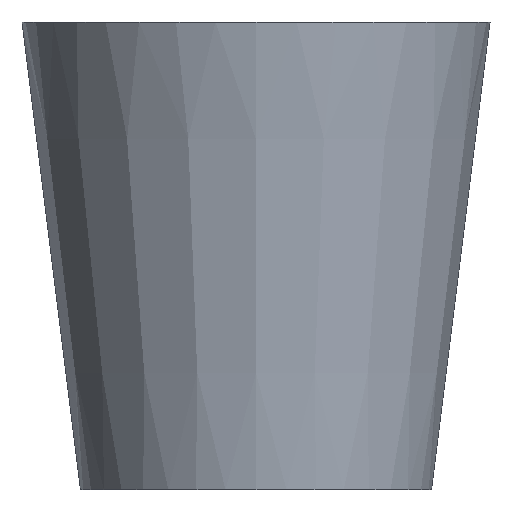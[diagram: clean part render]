
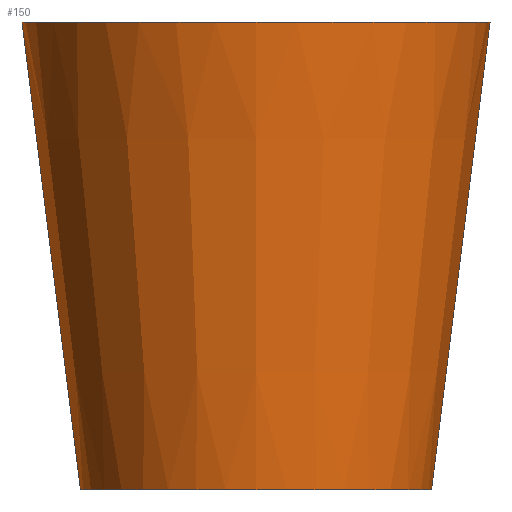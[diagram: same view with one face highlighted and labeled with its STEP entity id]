
A CAD part, front view. The second image highlights one B-rep face of the part: STEP entity #150.
In plain terms, the highlighted conical face has half-angle 7.125 degrees and reference radius 38.1 mm.
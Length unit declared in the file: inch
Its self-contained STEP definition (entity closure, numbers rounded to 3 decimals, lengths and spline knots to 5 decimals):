
#6 = DIRECTION ( 'NONE',  ( 0., 0., 1. ) ) ;
#17 = EDGE_CURVE ( 'NONE', #93, #95, #208, .T. ) ;
#23 = AXIS2_PLACEMENT_3D ( 'NONE', #186, #189, #143 ) ;
#26 = LINE ( 'NONE', #88, #86 ) ;
#39 = ORIENTED_EDGE ( 'NONE', *, *, #17, .F. ) ;
#41 = EDGE_LOOP ( 'NONE', ( #209, #157, #97, #39 ) ) ;
#46 = DIRECTION ( 'NONE',  ( 0.124, 0., 0.992 ) ) ;
#49 = FACE_OUTER_BOUND ( 'NONE', #41, .T. ) ;
#54 = VERTEX_POINT ( 'NONE', #213 ) ;
#59 = DIRECTION ( 'NONE',  ( 1., 0., 0. ) ) ;
#65 = DIRECTION ( 'NONE',  ( 1., 0., 0. ) ) ;
#85 = VERTEX_POINT ( 'NONE', #181 ) ;
#86 = VECTOR ( 'NONE', #163, 39.37008 ) ;
#88 = CARTESIAN_POINT ( 'NONE',  ( -1.5, 0., -4. ) ) ;
#93 = VERTEX_POINT ( 'NONE', #159 ) ;
#95 = VERTEX_POINT ( 'NONE', #146 ) ;
#96 = AXIS2_PLACEMENT_3D ( 'NONE', #158, #6, #65 ) ;
#97 = ORIENTED_EDGE ( 'NONE', *, *, #172, .T. ) ;
#102 = LINE ( 'NONE', #183, #185 ) ;
#104 = AXIS2_PLACEMENT_3D ( 'NONE', #187, #218, #59 ) ;
#115 = CONICAL_SURFACE ( 'NONE', #23, 1.5, 0.124 ) ;
#143 = DIRECTION ( 'NONE',  ( 1., 0., 0. ) ) ;
#146 = CARTESIAN_POINT ( 'NONE',  ( 2., 0., 0. ) ) ;
#150 = ADVANCED_FACE ( 'NONE', ( #49 ), #115, .T. ) ;
#154 = EDGE_CURVE ( 'NONE', #85, #54, #220, .T. ) ;
#157 = ORIENTED_EDGE ( 'NONE', *, *, #154, .T. ) ;
#158 = CARTESIAN_POINT ( 'NONE',  ( 0., 0., 0. ) ) ;
#159 = CARTESIAN_POINT ( 'NONE',  ( -2., 0., 0. ) ) ;
#163 = DIRECTION ( 'NONE',  ( -0.124, 0., 0.992 ) ) ;
#172 = EDGE_CURVE ( 'NONE', #54, #95, #102, .T. ) ;
#181 = CARTESIAN_POINT ( 'NONE',  ( -1.5, 0., -4. ) ) ;
#183 = CARTESIAN_POINT ( 'NONE',  ( 1.5, 0., -4. ) ) ;
#185 = VECTOR ( 'NONE', #46, 39.37008 ) ;
#186 = CARTESIAN_POINT ( 'NONE',  ( 0., 0., -4. ) ) ;
#187 = CARTESIAN_POINT ( 'NONE',  ( 0., 0., -4. ) ) ;
#189 = DIRECTION ( 'NONE',  ( 0., 0., 1. ) ) ;
#199 = EDGE_CURVE ( 'NONE', #85, #93, #26, .T. ) ;
#208 = CIRCLE ( 'NONE', #96, 2. ) ;
#209 = ORIENTED_EDGE ( 'NONE', *, *, #199, .F. ) ;
#213 = CARTESIAN_POINT ( 'NONE',  ( 1.5, 0., -4. ) ) ;
#218 = DIRECTION ( 'NONE',  ( 0., 0., 1. ) ) ;
#220 = CIRCLE ( 'NONE', #104, 1.5 ) ;
